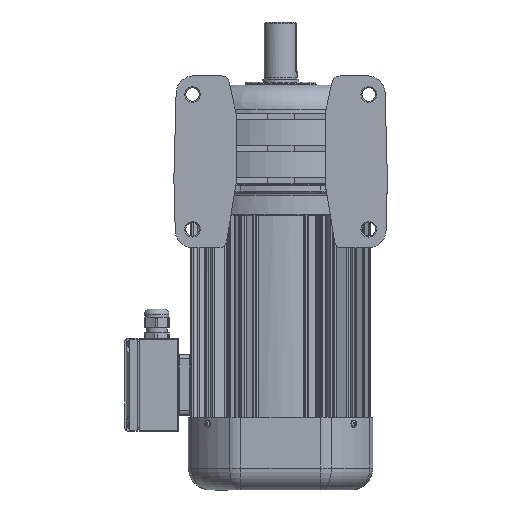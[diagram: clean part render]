
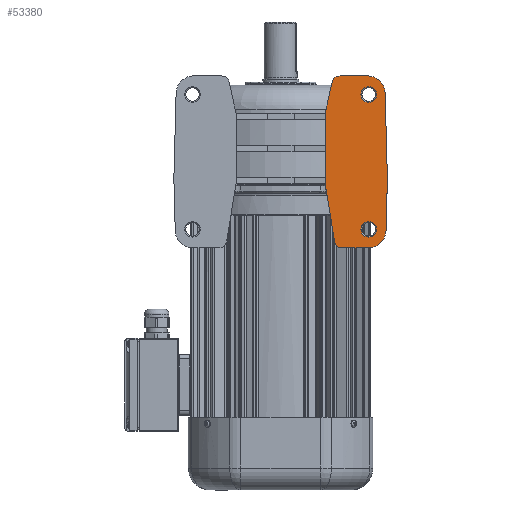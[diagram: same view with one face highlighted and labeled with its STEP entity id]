
A CAD part, front view. The second image highlights one B-rep face of the part: STEP entity #53380.
In plain terms, the highlighted planar face has unit normal (0, -1, 0).
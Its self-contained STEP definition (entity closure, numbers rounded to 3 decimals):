
#1755=LINE('',#91744,#4434);
#1883=LINE('',#94045,#4562);
#1892=LINE('',#94069,#4571);
#1896=LINE('',#94981,#4575);
#2073=LINE('',#95910,#4752);
#2076=LINE('',#95918,#4755);
#2079=LINE('',#95923,#4758);
#4434=VECTOR('',#66648,55.988);
#4562=VECTOR('',#67086,30.461);
#4571=VECTOR('',#67111,26.43);
#4575=VECTOR('',#67199,68.);
#4752=VECTOR('',#67692,24.872);
#4755=VECTOR('',#67701,50.462);
#4758=VECTOR('',#67706,82.473);
#7015=FACE_BOUND('',#12839,.T.);
#7016=FACE_BOUND('',#12840,.T.);
#7658=PLANE('',#57838);
#9507=FACE_OUTER_BOUND('',#12838,.T.);
#12838=EDGE_LOOP('',(#39866,#39867,#39868,#39869,#39870,#39871,#39872,#39873,
#39874,#39875,#39876));
#12839=EDGE_LOOP('',(#39877));
#12840=EDGE_LOOP('',(#39878));
#15985=CIRCLE('',#57455,7.5);
#15998=CIRCLE('',#57481,7.5);
#16084=CIRCLE('',#57627,8.);
#16086=CIRCLE('',#57633,8.);
#16161=CIRCLE('',#57833,17.);
#16162=CIRCLE('',#57837,17.);
#21985=VERTEX_POINT('',#91707);
#21997=VERTEX_POINT('',#91742);
#21998=VERTEX_POINT('',#91743);
#22017=VERTEX_POINT('',#91813);
#22214=VERTEX_POINT('',#94043);
#22215=VERTEX_POINT('',#94044);
#22218=VERTEX_POINT('',#94055);
#22221=VERTEX_POINT('',#94067);
#22222=VERTEX_POINT('',#94068);
#22369=VERTEX_POINT('',#95909);
#22370=VERTEX_POINT('',#95913);
#22371=VERTEX_POINT('',#95917);
#22372=VERTEX_POINT('',#95922);
#27923=EDGE_CURVE('',#21985,#21985,#15985,.T.);
#27939=EDGE_CURVE('',#21997,#21998,#1755,.T.);
#27962=EDGE_CURVE('',#22017,#22017,#15998,.T.);
#28222=EDGE_CURVE('',#22214,#22215,#1883,.T.);
#28228=EDGE_CURVE('',#22218,#21997,#16084,.T.);
#28234=EDGE_CURVE('',#22221,#22222,#1892,.T.);
#28237=EDGE_CURVE('',#22215,#22221,#16086,.T.);
#28294=EDGE_CURVE('',#21998,#22214,#1896,.T.);
#28526=EDGE_CURVE('',#22369,#22218,#2073,.T.);
#28528=EDGE_CURVE('',#22370,#22369,#16161,.T.);
#28530=EDGE_CURVE('',#22371,#22370,#2076,.T.);
#28533=EDGE_CURVE('',#22372,#22371,#2079,.T.);
#28535=EDGE_CURVE('',#22222,#22372,#16162,.T.);
#39866=ORIENTED_EDGE('',*,*,#28228,.F.);
#39867=ORIENTED_EDGE('',*,*,#28526,.F.);
#39868=ORIENTED_EDGE('',*,*,#28528,.F.);
#39869=ORIENTED_EDGE('',*,*,#28530,.F.);
#39870=ORIENTED_EDGE('',*,*,#28533,.F.);
#39871=ORIENTED_EDGE('',*,*,#28535,.F.);
#39872=ORIENTED_EDGE('',*,*,#28234,.F.);
#39873=ORIENTED_EDGE('',*,*,#28237,.F.);
#39874=ORIENTED_EDGE('',*,*,#28222,.F.);
#39875=ORIENTED_EDGE('',*,*,#28294,.F.);
#39876=ORIENTED_EDGE('',*,*,#27939,.F.);
#39877=ORIENTED_EDGE('',*,*,#27962,.F.);
#39878=ORIENTED_EDGE('',*,*,#27923,.F.);
#53380=ADVANCED_FACE('',(#9507,#7015,#7016),#7658,.F.);
#57455=AXIS2_PLACEMENT_3D('',#91709,#66612,#66613);
#57481=AXIS2_PLACEMENT_3D('',#91815,#66686,#66687);
#57627=AXIS2_PLACEMENT_3D('',#94056,#67097,#67098);
#57633=AXIS2_PLACEMENT_3D('',#94073,#67116,#67117);
#57833=AXIS2_PLACEMENT_3D('',#95914,#67696,#67697);
#57837=AXIS2_PLACEMENT_3D('',#95926,#67710,#67711);
#57838=AXIS2_PLACEMENT_3D('',#95927,#67712,#67713);
#66612=DIRECTION('center_axis',(0.,-1.,0.));
#66613=DIRECTION('ref_axis',(-1.,0.,0.));
#66648=DIRECTION('',(-0.159,0.,0.987));
#66686=DIRECTION('center_axis',(0.,-1.,0.));
#66687=DIRECTION('ref_axis',(-1.,0.,0.));
#67086=DIRECTION('',(0.217,0.,0.976));
#67097=DIRECTION('center_axis',(0.,1.,0.));
#67098=DIRECTION('ref_axis',(-0.648,0.,-0.761));
#67111=DIRECTION('',(1.,0.,0.));
#67116=DIRECTION('center_axis',(0.,1.,0.));
#67117=DIRECTION('ref_axis',(-0.626,0.,0.78));
#67199=DIRECTION('',(0.,0.,1.));
#67692=DIRECTION('',(-1.,0.,0.));
#67696=DIRECTION('center_axis',(0.,1.,0.));
#67697=DIRECTION('ref_axis',(0.698,0.,-0.716));
#67701=DIRECTION('',(-0.026,0.,-1.));
#67706=DIRECTION('',(0.026,0.,-1.));
#67710=DIRECTION('center_axis',(0.,1.,0.));
#67711=DIRECTION('ref_axis',(0.698,0.,0.716));
#67712=DIRECTION('center_axis',(0.,1.,0.));
#67713=DIRECTION('ref_axis',(0.,0.,1.));
#91707=CARTESIAN_POINT('',(93.399,-116.801,-91.));
#91709=CARTESIAN_POINT('Origin',(85.899,-116.801,-91.));
#91742=CARTESIAN_POINT('',(52.814,-116.801,-102.274));
#91743=CARTESIAN_POINT('',(43.899,-116.801,-47.));
#91744=CARTESIAN_POINT('',(52.814,-116.801,-102.274));
#91813=CARTESIAN_POINT('',(93.399,-116.801,39.));
#91815=CARTESIAN_POINT('Origin',(85.899,-116.801,39.));
#94043=CARTESIAN_POINT('',(43.899,-116.801,21.));
#94044=CARTESIAN_POINT('',(50.507,-116.801,50.735));
#94045=CARTESIAN_POINT('',(43.899,-116.801,21.));
#94055=CARTESIAN_POINT('',(60.712,-116.801,-109.));
#94056=CARTESIAN_POINT('Origin',(60.712,-116.801,-101.));
#94067=CARTESIAN_POINT('',(58.316,-116.801,57.));
#94068=CARTESIAN_POINT('',(84.746,-116.801,57.));
#94069=CARTESIAN_POINT('',(58.316,-116.801,57.));
#94073=CARTESIAN_POINT('Origin',(58.316,-116.801,49.));
#94981=CARTESIAN_POINT('',(43.899,-116.801,-47.));
#95909=CARTESIAN_POINT('',(85.584,-116.801,-109.));
#95910=CARTESIAN_POINT('',(85.584,-116.801,-109.));
#95913=CARTESIAN_POINT('',(102.578,-116.801,-92.445));
#95914=CARTESIAN_POINT('Origin',(85.584,-116.801,-92.));
#95917=CARTESIAN_POINT('',(103.899,-116.801,-42.));
#95918=CARTESIAN_POINT('',(103.899,-116.801,-42.));
#95922=CARTESIAN_POINT('',(101.74,-116.801,40.445));
#95923=CARTESIAN_POINT('',(101.74,-116.801,40.445));
#95926=CARTESIAN_POINT('Origin',(84.746,-116.801,40.));
#95927=CARTESIAN_POINT('Origin',(1.399,-116.801,-26.));
